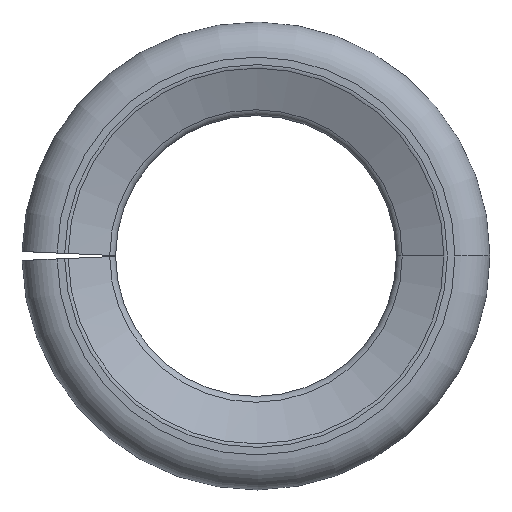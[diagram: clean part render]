
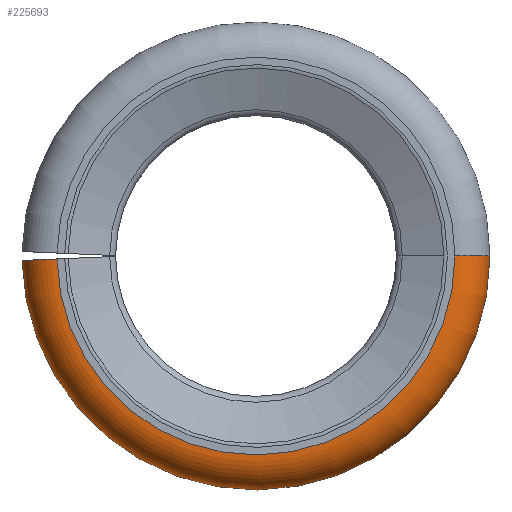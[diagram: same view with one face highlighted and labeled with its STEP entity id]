
A CAD part, left-side view. The second image highlights one B-rep face of the part: STEP entity #225693.
In plain terms, the highlighted toroidal (fillet/blend) face has major radius 26.988 mm and minor radius 4.763 mm.
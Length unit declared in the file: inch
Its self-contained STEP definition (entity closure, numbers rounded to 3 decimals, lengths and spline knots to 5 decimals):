
#1391 = B_SPLINE_CURVE_WITH_KNOTS ( 'NONE', 3,
 ( #186437, #137759, #122263, #79051, #52644, #76323, #34432, #203266, #120900, #95905, #74960, #55364, #225514, #58093, #139116, #141838, #97274, #140479, #143179, #35785, #224146, #243740, #182336, #185073, #267407, #33069, #246460, #158691, #119543, #222776, #118184, #31709, #161411, #228236 ),
 .UNSPECIFIED., .F., .F.,
 ( 4, 2, 2, 2, 2, 2, 2, 2, 2, 2, 2, 2, 2, 2, 2, 2, 4 ),
 ( 0.01002, 0.01095, 0.01188, 0.01281, 0.01374, 0.01467, 0.0156, 0.01653, 0.01746, 0.01839, 0.01933, 0.02026, 0.02119, 0.02212, 0.02305, 0.02398, 0.02491 ),
 .UNSPECIFIED. ) ;
#11421 = DIRECTION ( 'NONE',  ( -1., 0., 0. ) ) ;
#16841 = DIRECTION ( 'NONE',  ( 1., 0., 0. ) ) ;
#23773 = AXIS2_PLACEMENT_3D ( 'NONE', #223706, #92764, #240531 ) ;
#26059 = VERTEX_POINT ( 'NONE', #219052 ) ;
#30874 = DIRECTION ( 'NONE',  ( 0., 0., -1. ) ) ;
#31709 = CARTESIAN_POINT ( 'NONE',  ( -2.41608, 1.72782, 3.24989 ) ) ;
#33069 = CARTESIAN_POINT ( 'NONE',  ( -2.37107, 1.82721, 3.24555 ) ) ;
#34432 = CARTESIAN_POINT ( 'NONE',  ( -2.06696, 1.7972, 3.24686 ) ) ;
#35785 = CARTESIAN_POINT ( 'NONE',  ( -2.27832, 1.88483, 3.24304 ) ) ;
#40991 = ORIENTED_EDGE ( 'NONE', *, *, #261554, .F. ) ;
#50546 = CARTESIAN_POINT ( 'NONE',  ( -2.22977, 0.64104, 3.26678 ) ) ;
#52644 = CARTESIAN_POINT ( 'NONE',  ( -2.05185, 1.76382, 3.24832 ) ) ;
#55364 = CARTESIAN_POINT ( 'NONE',  ( -2.13582, 1.86606, 3.24386 ) ) ;
#58093 = CARTESIAN_POINT ( 'NONE',  ( -2.16925, 1.88121, 3.2432 ) ) ;
#59548 = VERTEX_POINT ( 'NONE', #98565 ) ;
#62104 = CARTESIAN_POINT ( 'NONE',  ( -2.04227, -0.42146, 3.26678 ) ) ;
#68591 = CARTESIAN_POINT ( 'NONE',  ( -2.22977, -0.42146, 3.26678 ) ) ;
#74960 = CARTESIAN_POINT ( 'NONE',  ( -2.11538, 1.85241, 3.24445 ) ) ;
#76323 = CARTESIAN_POINT ( 'NONE',  ( -2.0612, 1.78638, 3.24734 ) ) ;
#79051 = CARTESIAN_POINT ( 'NONE',  ( -2.04824, 1.75193, 3.24884 ) ) ;
#92484 = DIRECTION ( 'NONE',  ( 0., -1., 0. ) ) ;
#92764 = DIRECTION ( 'NONE',  ( 1., 0., 0. ) ) ;
#95905 = CARTESIAN_POINT ( 'NONE',  ( -2.10576, 1.84451, 3.2448 ) ) ;
#97274 = CARTESIAN_POINT ( 'NONE',  ( -2.21737, 1.89081, 3.24278 ) ) ;
#98565 = CARTESIAN_POINT ( 'NONE',  ( -2.41727, 1.70343, 3.25096 ) ) ;
#104033 = CIRCLE ( 'NONE', #23773, 1.0625 ) ;
#118184 = CARTESIAN_POINT ( 'NONE',  ( -2.41125, 1.7521, 3.24883 ) ) ;
#118432 = EDGE_CURVE ( 'NONE', #26059, #59548, #104033, .T. ) ;
#119543 = CARTESIAN_POINT ( 'NONE',  ( -2.39834, 1.78637, 3.24734 ) ) ;
#120900 = CARTESIAN_POINT ( 'NONE',  ( -2.08849, 1.82723, 3.24555 ) ) ;
#122263 = CARTESIAN_POINT ( 'NONE',  ( -2.04345, 1.72782, 3.24989 ) ) ;
#131025 = AXIS2_PLACEMENT_3D ( 'NONE', #68591, #30874, #221939 ) ;
#132115 = EDGE_LOOP ( 'NONE', ( #40991, #167001, #167718, #203749 ) ) ;
#137759 = CARTESIAN_POINT ( 'NONE',  ( -2.04227, 1.71567, 3.25042 ) ) ;
#139116 = CARTESIAN_POINT ( 'NONE',  ( -2.1812, 1.88483, 3.24304 ) ) ;
#140479 = CARTESIAN_POINT ( 'NONE',  ( -2.24205, 1.89082, 3.24278 ) ) ;
#141838 = CARTESIAN_POINT ( 'NONE',  ( -2.2052, 1.8896, 3.24283 ) ) ;
#142365 = VERTEX_POINT ( 'NONE', #201964 ) ;
#143179 = CARTESIAN_POINT ( 'NONE',  ( -2.25436, 1.8896, 3.24283 ) ) ;
#148972 = AXIS2_PLACEMENT_3D ( 'NONE', #50546, #11421, #92484 ) ;
#158691 = CARTESIAN_POINT ( 'NONE',  ( -2.39248, 1.79735, 3.24686 ) ) ;
#161411 = CARTESIAN_POINT ( 'NONE',  ( -2.41727, 1.71564, 3.25042 ) ) ;
#167001 = ORIENTED_EDGE ( 'NONE', *, *, #224773, .T. ) ;
#167718 = ORIENTED_EDGE ( 'NONE', *, *, #118432, .T. ) ;
#171271 = CIRCLE ( 'NONE', #131025, 0.1875 ) ;
#179048 = VERTEX_POINT ( 'NONE', #62104 ) ;
#182336 = CARTESIAN_POINT ( 'NONE',  ( -2.32373, 1.86604, 3.24386 ) ) ;
#185073 = CARTESIAN_POINT ( 'NONE',  ( -2.34408, 1.85246, 3.24445 ) ) ;
#185680 = CARTESIAN_POINT ( 'NONE',  ( -2.04227, 0.64104, 3.26678 ) ) ;
#186437 = CARTESIAN_POINT ( 'NONE',  ( -2.04227, 1.70343, 3.25096 ) ) ;
#198754 = CIRCLE ( 'NONE', #269963, 1.0625 ) ;
#201964 = CARTESIAN_POINT ( 'NONE',  ( -2.04227, 1.70343, 3.25096 ) ) ;
#203266 = CARTESIAN_POINT ( 'NONE',  ( -2.08071, 1.81778, 3.24596 ) ) ;
#203749 = ORIENTED_EDGE ( 'NONE', *, *, #265660, .F. ) ;
#209316 = DIRECTION ( 'NONE',  ( 0., -1., 0. ) ) ;
#219052 = CARTESIAN_POINT ( 'NONE',  ( -2.41727, -0.42146, 3.26678 ) ) ;
#221939 = DIRECTION ( 'NONE',  ( -1., 0., 0. ) ) ;
#222776 = CARTESIAN_POINT ( 'NONE',  ( -2.40769, 1.76381, 3.24832 ) ) ;
#223706 = CARTESIAN_POINT ( 'NONE',  ( -2.41727, 0.64104, 3.26678 ) ) ;
#224146 = CARTESIAN_POINT ( 'NONE',  ( -2.29016, 1.88125, 3.24319 ) ) ;
#224773 = EDGE_CURVE ( 'NONE', #179048, #26059, #171271, .T. ) ;
#225514 = CARTESIAN_POINT ( 'NONE',  ( -2.1466, 1.87182, 3.24361 ) ) ;
#225693 = ADVANCED_FACE ( 'NONE', ( #243011 ), #269193, .T. ) ;
#228236 = CARTESIAN_POINT ( 'NONE',  ( -2.41727, 1.70343, 3.25096 ) ) ;
#240531 = DIRECTION ( 'NONE',  ( 0., -1., 0. ) ) ;
#243011 = FACE_OUTER_BOUND ( 'NONE', #132115, .T. ) ;
#243740 = CARTESIAN_POINT ( 'NONE',  ( -2.31296, 1.87181, 3.24361 ) ) ;
#246460 = CARTESIAN_POINT ( 'NONE',  ( -2.37882, 1.81777, 3.24596 ) ) ;
#261554 = EDGE_CURVE ( 'NONE', #179048, #142365, #198754, .T. ) ;
#265660 = EDGE_CURVE ( 'NONE', #142365, #59548, #1391, .T. ) ;
#267407 = CARTESIAN_POINT ( 'NONE',  ( -2.35374, 1.84454, 3.2448 ) ) ;
#269193 = TOROIDAL_SURFACE ( 'NONE', #148972, 1.0625, 0.1875 ) ;
#269963 = AXIS2_PLACEMENT_3D ( 'NONE', #185680, #16841, #209316 ) ;
